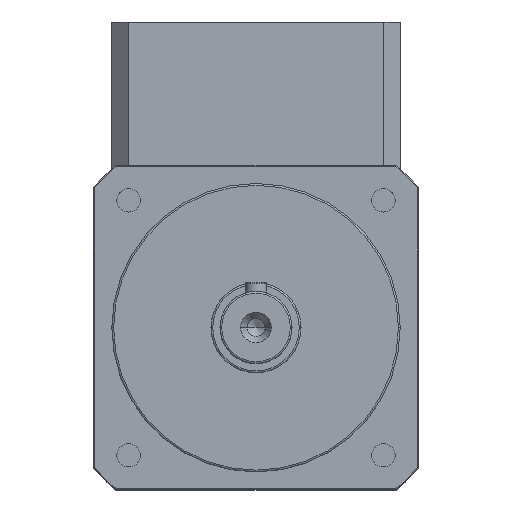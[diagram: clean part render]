
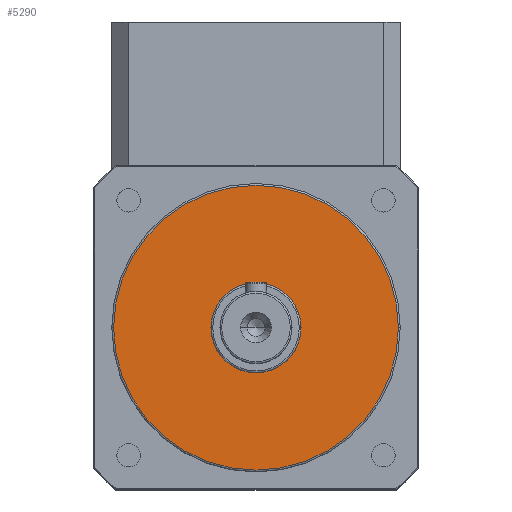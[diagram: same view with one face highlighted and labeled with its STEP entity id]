
A CAD part, top view. The second image highlights one B-rep face of the part: STEP entity #5290.
In plain terms, the highlighted planar face has unit normal (0, 0, 1).
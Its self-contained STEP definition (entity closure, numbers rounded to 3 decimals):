
#157 = CARTESIAN_POINT ( 'NONE',  ( -39.5, 0., 3. ) ) ;
#490 = VERTEX_POINT ( 'NONE', #157 ) ;
#754 = ORIENTED_EDGE ( 'NONE', *, *, #5375, .F. ) ;
#1114 = DIRECTION ( 'NONE',  ( 0., 0., 1. ) ) ;
#1139 = CIRCLE ( 'NONE', #1215, 12.5 ) ;
#1215 = AXIS2_PLACEMENT_3D ( 'NONE', #4016, #4494, #4432 ) ;
#1256 = EDGE_LOOP ( 'NONE', ( #754, #3301 ) ) ;
#1361 = FACE_OUTER_BOUND ( 'NONE', #2879, .T. ) ;
#1945 = DIRECTION ( 'NONE',  ( 0., 0., 1. ) ) ;
#1967 = CARTESIAN_POINT ( 'NONE',  ( 12.5, 0., 3. ) ) ;
#2043 = EDGE_CURVE ( 'NONE', #2442, #3550, #1139, .T. ) ;
#2080 = DIRECTION ( 'NONE',  ( 0., 0., 1. ) ) ;
#2430 = ORIENTED_EDGE ( 'NONE', *, *, #5315, .T. ) ;
#2436 = CARTESIAN_POINT ( 'NONE',  ( 0., 0., 3. ) ) ;
#2442 = VERTEX_POINT ( 'NONE', #3291 ) ;
#2559 = EDGE_CURVE ( 'NONE', #490, #5938, #5784, .T. ) ;
#2879 = EDGE_LOOP ( 'NONE', ( #2430, #3117 ) ) ;
#2911 = DIRECTION ( 'NONE',  ( 1., 0., 0. ) ) ;
#3117 = ORIENTED_EDGE ( 'NONE', *, *, #2559, .T. ) ;
#3268 = CIRCLE ( 'NONE', #5862, 12.5 ) ;
#3291 = CARTESIAN_POINT ( 'NONE',  ( -12.5, 0., 3. ) ) ;
#3301 = ORIENTED_EDGE ( 'NONE', *, *, #2043, .F. ) ;
#3550 = VERTEX_POINT ( 'NONE', #1967 ) ;
#3562 = FACE_BOUND ( 'NONE', #1256, .T. ) ;
#3660 = AXIS2_PLACEMENT_3D ( 'NONE', #2436, #5701, #2911 ) ;
#3797 = CARTESIAN_POINT ( 'NONE',  ( 0., 0., 3. ) ) ;
#3916 = CARTESIAN_POINT ( 'NONE',  ( 39.5, 0., 3. ) ) ;
#3922 = CARTESIAN_POINT ( 'NONE',  ( 0., 0., 3. ) ) ;
#4016 = CARTESIAN_POINT ( 'NONE',  ( 0., 0., 3. ) ) ;
#4400 = DIRECTION ( 'NONE',  ( 1., 0., 0. ) ) ;
#4432 = DIRECTION ( 'NONE',  ( 1., 0., 0. ) ) ;
#4494 = DIRECTION ( 'NONE',  ( 0., 0., 1. ) ) ;
#4741 = PLANE ( 'NONE',  #5235 ) ;
#4876 = CARTESIAN_POINT ( 'NONE',  ( 0., 0., 3. ) ) ;
#5207 = DIRECTION ( 'NONE',  ( 1., 0., 0. ) ) ;
#5235 = AXIS2_PLACEMENT_3D ( 'NONE', #3797, #1945, #5207 ) ;
#5290 = ADVANCED_FACE ( 'NONE', ( #3562, #1361 ), #4741, .T. ) ;
#5315 = EDGE_CURVE ( 'NONE', #5938, #490, #5897, .T. ) ;
#5334 = DIRECTION ( 'NONE',  ( 1., 0., 0. ) ) ;
#5375 = EDGE_CURVE ( 'NONE', #3550, #2442, #3268, .T. ) ;
#5383 = AXIS2_PLACEMENT_3D ( 'NONE', #4876, #2080, #5334 ) ;
#5701 = DIRECTION ( 'NONE',  ( 0., 0., 1. ) ) ;
#5784 = CIRCLE ( 'NONE', #5383, 39.5 ) ;
#5862 = AXIS2_PLACEMENT_3D ( 'NONE', #3922, #1114, #4400 ) ;
#5897 = CIRCLE ( 'NONE', #3660, 39.5 ) ;
#5938 = VERTEX_POINT ( 'NONE', #3916 ) ;
